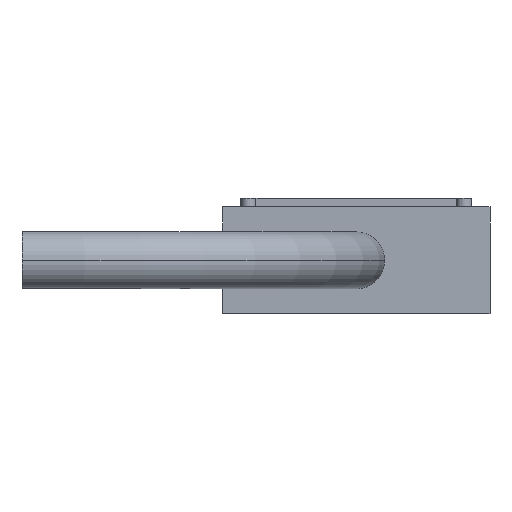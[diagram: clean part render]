
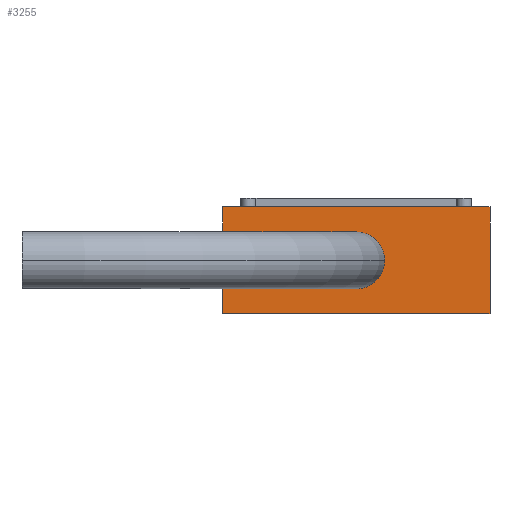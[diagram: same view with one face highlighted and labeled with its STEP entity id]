
A CAD part, front view. The second image highlights one B-rep face of the part: STEP entity #3255.
In plain terms, the highlighted planar face has unit normal (0, -1, 0).
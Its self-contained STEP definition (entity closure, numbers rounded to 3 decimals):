
#361 = AXIS2_PLACEMENT_3D ( 'NONE', #2523, #2554, #2555 ) ;
#363 = VECTOR ( 'NONE', #2559, 1000. ) ;
#364 = VECTOR ( 'NONE', #2562, 1000. ) ;
#503 = FACE_BOUND ( 'NONE', #1334, .T. ) ;
#506 = FACE_OUTER_BOUND ( 'NONE', #1333, .T. ) ;
#509 = AXIS2_PLACEMENT_3D ( 'NONE', #2833, #2834, #2835 ) ;
#828 = VERTEX_POINT ( 'NONE', #2145 ) ;
#829 = VERTEX_POINT ( 'NONE', #2146 ) ;
#830 = VERTEX_POINT ( 'NONE', #2147 ) ;
#833 = VERTEX_POINT ( 'NONE', #2150 ) ;
#942 = VERTEX_POINT ( 'NONE', #2259 ) ;
#944 = VERTEX_POINT ( 'NONE', #2261 ) ;
#1195 = ORIENTED_EDGE ( 'NONE', *, *, #3060, .F. ) ;
#1196 = ORIENTED_EDGE ( 'NONE', *, *, #3020, .F. ) ;
#1197 = ORIENTED_EDGE ( 'NONE', *, *, #2995, .F. ) ;
#1198 = ORIENTED_EDGE ( 'NONE', *, *, #3025, .F. ) ;
#1199 = ORIENTED_EDGE ( 'NONE', *, *, #3059, .F. ) ;
#1200 = ORIENTED_EDGE ( 'NONE', *, *, #3061, .F. ) ;
#1333 = EDGE_LOOP ( 'NONE', ( #1200, #1196, #1195, #1198 ) ) ;
#1334 = EDGE_LOOP ( 'NONE', ( #1199, #1197 ) ) ;
#2145 = CARTESIAN_POINT ( 'NONE',  ( 20., 0., 8. ) ) ;
#2146 = CARTESIAN_POINT ( 'NONE',  ( -20., 0., 8. ) ) ;
#2147 = CARTESIAN_POINT ( 'NONE',  ( 20., 0., -8. ) ) ;
#2150 = CARTESIAN_POINT ( 'NONE',  ( -20., 0., -8. ) ) ;
#2259 = CARTESIAN_POINT ( 'NONE',  ( -4.25, 0., 0. ) ) ;
#2261 = CARTESIAN_POINT ( 'NONE',  ( 4.25, 0., 0. ) ) ;
#2361 = CARTESIAN_POINT ( 'NONE',  ( 0., 0., 0. ) ) ;
#2362 = DIRECTION ( 'NONE',  ( 0., -1., 0. ) ) ;
#2363 = DIRECTION ( 'NONE',  ( 0., 0., -1. ) ) ;
#2437 = LINE ( 'NONE', #2438, #3433 ) ;
#2438 = CARTESIAN_POINT ( 'NONE',  ( -20., 0., 8. ) ) ;
#2439 = DIRECTION ( 'NONE',  ( 1., 0., 0. ) ) ;
#2452 = LINE ( 'NONE', #2453, #3610 ) ;
#2453 = CARTESIAN_POINT ( 'NONE',  ( -20., 0., -8. ) ) ;
#2454 = DIRECTION ( 'NONE',  ( -1., 0., 0. ) ) ;
#2523 = CARTESIAN_POINT ( 'NONE',  ( 0., 0., 0. ) ) ;
#2554 = DIRECTION ( 'NONE',  ( 0., -1., 0. ) ) ;
#2555 = DIRECTION ( 'NONE',  ( 0., 0., -1. ) ) ;
#2557 = LINE ( 'NONE', #2558, #363 ) ;
#2558 = CARTESIAN_POINT ( 'NONE',  ( -20., 0., 8. ) ) ;
#2559 = DIRECTION ( 'NONE',  ( 0., 0., 1. ) ) ;
#2560 = LINE ( 'NONE', #2561, #364 ) ;
#2561 = CARTESIAN_POINT ( 'NONE',  ( 20., 0., 8. ) ) ;
#2562 = DIRECTION ( 'NONE',  ( 0., 0., -1. ) ) ;
#2832 = PLANE ( 'NONE',  #509 ) ;
#2833 = CARTESIAN_POINT ( 'NONE',  ( 0., 0., 0. ) ) ;
#2834 = DIRECTION ( 'NONE',  ( 0., -1., 0. ) ) ;
#2835 = DIRECTION ( 'NONE',  ( 0., 0., -1. ) ) ;
#2995 = EDGE_CURVE ( 'NONE', #944, #942, #3152, .T. ) ;
#3020 = EDGE_CURVE ( 'NONE', #829, #828, #2437, .T. ) ;
#3025 = EDGE_CURVE ( 'NONE', #830, #833, #2452, .T. ) ;
#3059 = EDGE_CURVE ( 'NONE', #942, #944, #3171, .T. ) ;
#3060 = EDGE_CURVE ( 'NONE', #833, #829, #2557, .T. ) ;
#3061 = EDGE_CURVE ( 'NONE', #828, #830, #2560, .T. ) ;
#3152 = CIRCLE ( 'NONE', #3763, 4.25 ) ;
#3171 = CIRCLE ( 'NONE', #361, 4.25 ) ;
#3255 = ADVANCED_FACE ( 'NONE', ( #503, #506 ), #2832, .T. ) ;
#3433 = VECTOR ( 'NONE', #2439, 1000. ) ;
#3610 = VECTOR ( 'NONE', #2454, 1000. ) ;
#3763 = AXIS2_PLACEMENT_3D ( 'NONE', #2361, #2362, #2363 ) ;
